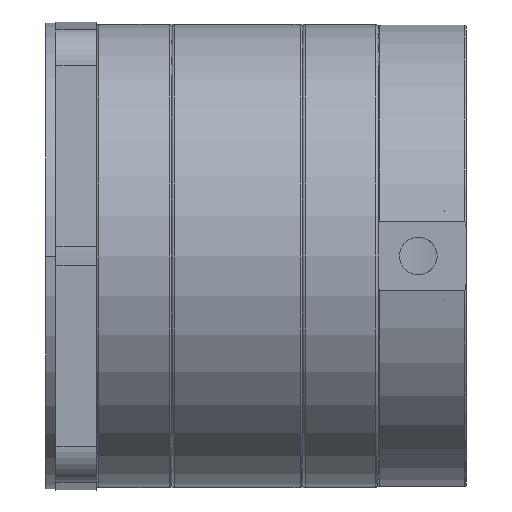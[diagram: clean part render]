
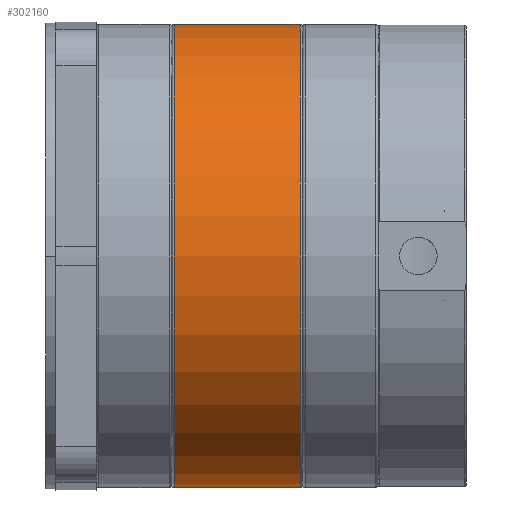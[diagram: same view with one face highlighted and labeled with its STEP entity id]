
A CAD part, front view. The second image highlights one B-rep face of the part: STEP entity #302160.
In plain terms, the highlighted cylindrical face has radius 92 mm (diameter 184 mm), a partial arc.
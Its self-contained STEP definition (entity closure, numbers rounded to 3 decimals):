
#110=CARTESIAN_POINT('',(43.,-92.,0.));
#120=VERTEX_POINT('',#110);
#170=CARTESIAN_POINT('',(43.,0.,0.));
#180=DIRECTION('',(1.,0.,0.));
#190=DIRECTION('',(0.,1.,0.));
#200=AXIS2_PLACEMENT_3D('',#170,#180,#190);
#210=CIRCLE('',#200,92.);
#220=CARTESIAN_POINT('',(43.,92.,0.));
#230=VERTEX_POINT('',#220);
#240=EDGE_CURVE('',#230,#120,#210,.T.);
#183930=CARTESIAN_POINT('',(15.,-92.,0.));
#183940=DIRECTION('',(-1.,0.,0.));
#183950=VECTOR('',#183940,1.);
#183960=LINE('',#183930,#183950);
#183970=CARTESIAN_POINT('',(-7.,-92.,0.));
#183980=VERTEX_POINT('',#183970);
#183990=EDGE_CURVE('',#120,#183980,#183960,.T.);
#184030=CARTESIAN_POINT('',(15.,92.,0.));
#184040=DIRECTION('',(-1.,0.,0.));
#184050=VECTOR('',#184040,1.);
#184060=LINE('',#184030,#184050);
#184070=CARTESIAN_POINT('',(-7.,92.,0.));
#184080=VERTEX_POINT('',#184070);
#184090=EDGE_CURVE('',#230,#184080,#184060,.T.);
#184110=CARTESIAN_POINT('',(-7.,0.,0.));
#184120=DIRECTION('',(1.,0.,0.));
#184130=DIRECTION('',(0.,1.,0.));
#184140=AXIS2_PLACEMENT_3D('',#184110,#184120,#184130);
#184150=CIRCLE('',#184140,92.);
#302040=CARTESIAN_POINT('',(15.,0.,0.));
#302050=DIRECTION('',(-1.,0.,0.));
#302060=DIRECTION('',(0.,1.,0.));
#302070=AXIS2_PLACEMENT_3D('',#302040,#302050,#302060);
#302080=CYLINDRICAL_SURFACE('',#302070,92.);
#302090=ORIENTED_EDGE('',*,*,#240,.F.);
#302100=ORIENTED_EDGE('',*,*,#183990,.F.);
#302110=EDGE_CURVE('',#184080,#183980,#184150,.T.);
#302120=ORIENTED_EDGE('',*,*,#302110,.T.);
#302130=ORIENTED_EDGE('',*,*,#184090,.T.);
#302140=EDGE_LOOP('',(#302130,#302120,#302100,#302090));
#302150=FACE_OUTER_BOUND('',#302140,.T.);
#302160=ADVANCED_FACE('',(#302150),#302080,.T.);
